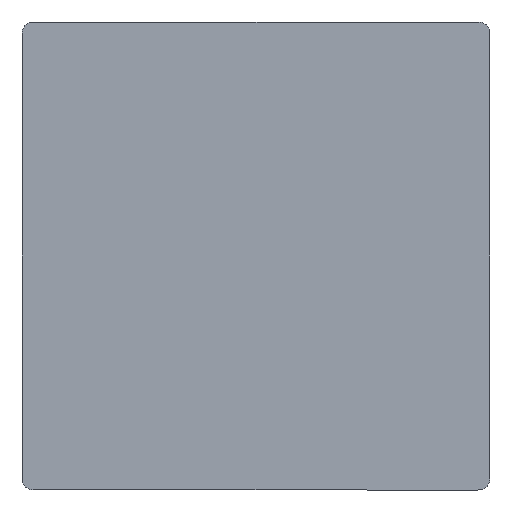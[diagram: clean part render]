
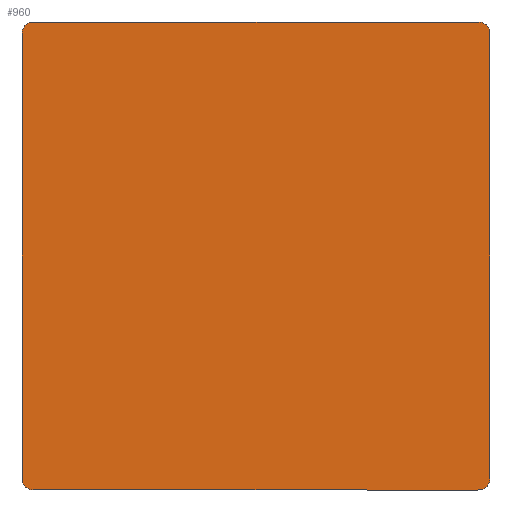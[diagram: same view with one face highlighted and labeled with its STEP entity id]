
A CAD part, front view. The second image highlights one B-rep face of the part: STEP entity #960.
In plain terms, the highlighted planar face has unit normal (0, -1, 0).
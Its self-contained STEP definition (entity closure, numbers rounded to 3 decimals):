
#115 = ORIENTED_EDGE ( 'NONE', *, *, #2377, .T. ) ;
#129 = CARTESIAN_POINT ( 'NONE',  ( 8.934, 0., -9.1 ) ) ;
#141 = CARTESIAN_POINT ( 'NONE',  ( 9.1, 0., -8.934 ) ) ;
#162 = VERTEX_POINT ( 'NONE', #1990 ) ;
#165 = CARTESIAN_POINT ( 'NONE',  ( -8.602, 0., -9.1 ) ) ;
#171 = EDGE_CURVE ( 'NONE', #1558, #162, #208, .T. ) ;
#180 = CARTESIAN_POINT ( 'NONE',  ( 8.602, 0., -9.1 ) ) ;
#187 = CARTESIAN_POINT ( 'NONE',  ( -9.1, 0., -8.934 ) ) ;
#208 = B_SPLINE_CURVE_WITH_KNOTS ( 'NONE', 3,
 ( #1619, #129, #141, #1955 ),
 .UNSPECIFIED., .F., .F.,
 ( 4, 4 ),
 ( 0., 1. ),
 .UNSPECIFIED. ) ;
#255 = ORIENTED_EDGE ( 'NONE', *, *, #2076, .F. ) ;
#277 = CARTESIAN_POINT ( 'NONE',  ( 0., 0., 0. ) ) ;
#279 = CARTESIAN_POINT ( 'NONE',  ( 9.1, 0., 8.602 ) ) ;
#307 = VERTEX_POINT ( 'NONE', #2250 ) ;
#319 = VERTEX_POINT ( 'NONE', #484 ) ;
#334 = CARTESIAN_POINT ( 'NONE',  ( -9.1, 0., -8.602 ) ) ;
#429 = FACE_OUTER_BOUND ( 'NONE', #593, .T. ) ;
#484 = CARTESIAN_POINT ( 'NONE',  ( -9.1, 0., 8.602 ) ) ;
#487 = ORIENTED_EDGE ( 'NONE', *, *, #2045, .T. ) ;
#524 = DIRECTION ( 'NONE',  ( 1., 0., 0. ) ) ;
#557 = LINE ( 'NONE', #2374, #2382 ) ;
#593 = EDGE_LOOP ( 'NONE', ( #255, #115, #887, #487, #1402, #853, #2365, #1351 ) ) ;
#628 = CARTESIAN_POINT ( 'NONE',  ( 8.602, 0., 9.1 ) ) ;
#716 = DIRECTION ( 'NONE',  ( 0., 0., 1. ) ) ;
#719 = EDGE_CURVE ( 'NONE', #1427, #162, #1632, .T. ) ;
#853 = ORIENTED_EDGE ( 'NONE', *, *, #171, .T. ) ;
#887 = ORIENTED_EDGE ( 'NONE', *, *, #1656, .F. ) ;
#933 = DIRECTION ( 'NONE',  ( 0., 0., -1. ) ) ;
#960 = ADVANCED_FACE ( 'NONE', ( #429 ), #1738, .T. ) ;
#984 = CARTESIAN_POINT ( 'NONE',  ( 8.602, 0., 9.1 ) ) ;
#1001 = VERTEX_POINT ( 'NONE', #628 ) ;
#1065 = B_SPLINE_CURVE_WITH_KNOTS ( 'NONE', 3,
 ( #1302, #1260, #2003, #2197 ),
 .UNSPECIFIED., .F., .F.,
 ( 4, 4 ),
 ( 0., 1. ),
 .UNSPECIFIED. ) ;
#1179 = DIRECTION ( 'NONE',  ( 0., 0., -1. ) ) ;
#1252 = CARTESIAN_POINT ( 'NONE',  ( -8.602, 0., 9.1 ) ) ;
#1260 = CARTESIAN_POINT ( 'NONE',  ( -8.934, 0., 9.1 ) ) ;
#1302 = CARTESIAN_POINT ( 'NONE',  ( -8.602, 0., 9.1 ) ) ;
#1320 = CARTESIAN_POINT ( 'NONE',  ( 8.934, 0., 9.1 ) ) ;
#1351 = ORIENTED_EDGE ( 'NONE', *, *, #1361, .T. ) ;
#1361 = EDGE_CURVE ( 'NONE', #1427, #1001, #2146, .T. ) ;
#1385 = DIRECTION ( 'NONE',  ( 0., -1., 0. ) ) ;
#1402 = ORIENTED_EDGE ( 'NONE', *, *, #1641, .F. ) ;
#1409 = VECTOR ( 'NONE', #2213, 1000. ) ;
#1427 = VERTEX_POINT ( 'NONE', #2054 ) ;
#1449 = CARTESIAN_POINT ( 'NONE',  ( 9.1, 0., -9.1 ) ) ;
#1457 = CARTESIAN_POINT ( 'NONE',  ( -9.1, 0., -8.602 ) ) ;
#1461 = CARTESIAN_POINT ( 'NONE',  ( -8.934, 0., -9.1 ) ) ;
#1545 = VERTEX_POINT ( 'NONE', #1457 ) ;
#1558 = VERTEX_POINT ( 'NONE', #180 ) ;
#1610 = LINE ( 'NONE', #2358, #2339 ) ;
#1619 = CARTESIAN_POINT ( 'NONE',  ( 8.602, 0., -9.1 ) ) ;
#1627 = LINE ( 'NONE', #1449, #1409 ) ;
#1632 = LINE ( 'NONE', #2381, #1756 ) ;
#1641 = EDGE_CURVE ( 'NONE', #1558, #307, #1627, .T. ) ;
#1656 = EDGE_CURVE ( 'NONE', #1545, #319, #557, .T. ) ;
#1738 = PLANE ( 'NONE',  #2025 ) ;
#1756 = VECTOR ( 'NONE', #933, 1000. ) ;
#1955 = CARTESIAN_POINT ( 'NONE',  ( 9.1, 0., -8.602 ) ) ;
#1990 = CARTESIAN_POINT ( 'NONE',  ( 9.1, 0., -8.602 ) ) ;
#2003 = CARTESIAN_POINT ( 'NONE',  ( -9.1, 0., 8.934 ) ) ;
#2025 = AXIS2_PLACEMENT_3D ( 'NONE', #277, #1385, #1179 ) ;
#2045 = EDGE_CURVE ( 'NONE', #1545, #307, #2172, .T. ) ;
#2054 = CARTESIAN_POINT ( 'NONE',  ( 9.1, 0., 8.602 ) ) ;
#2076 = EDGE_CURVE ( 'NONE', #2305, #1001, #1610, .T. ) ;
#2080 = CARTESIAN_POINT ( 'NONE',  ( 9.1, 0., 8.934 ) ) ;
#2146 = B_SPLINE_CURVE_WITH_KNOTS ( 'NONE', 3,
 ( #279, #2080, #1320, #984 ),
 .UNSPECIFIED., .F., .F.,
 ( 4, 4 ),
 ( 0., 1. ),
 .UNSPECIFIED. ) ;
#2172 = B_SPLINE_CURVE_WITH_KNOTS ( 'NONE', 3,
 ( #334, #187, #1461, #165 ),
 .UNSPECIFIED., .F., .F.,
 ( 4, 4 ),
 ( 0., 1. ),
 .UNSPECIFIED. ) ;
#2197 = CARTESIAN_POINT ( 'NONE',  ( -9.1, 0., 8.602 ) ) ;
#2213 = DIRECTION ( 'NONE',  ( -1., 0., 0. ) ) ;
#2250 = CARTESIAN_POINT ( 'NONE',  ( -8.602, 0., -9.1 ) ) ;
#2305 = VERTEX_POINT ( 'NONE', #1252 ) ;
#2339 = VECTOR ( 'NONE', #524, 1000. ) ;
#2358 = CARTESIAN_POINT ( 'NONE',  ( 9.1, 0., 9.1 ) ) ;
#2365 = ORIENTED_EDGE ( 'NONE', *, *, #719, .F. ) ;
#2374 = CARTESIAN_POINT ( 'NONE',  ( -9.1, 0., -9.1 ) ) ;
#2377 = EDGE_CURVE ( 'NONE', #2305, #319, #1065, .T. ) ;
#2381 = CARTESIAN_POINT ( 'NONE',  ( 9.1, 0., -9.1 ) ) ;
#2382 = VECTOR ( 'NONE', #716, 1000. ) ;
